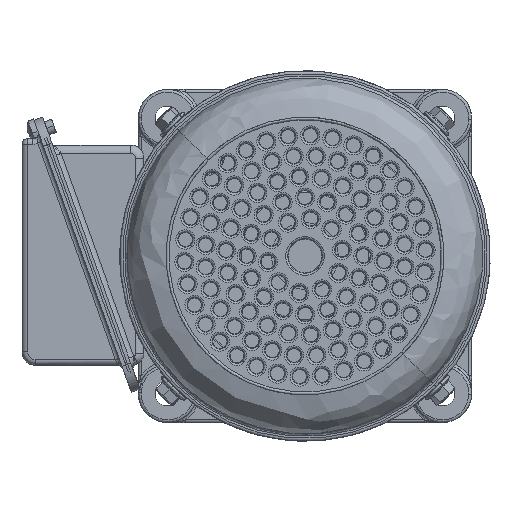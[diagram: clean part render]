
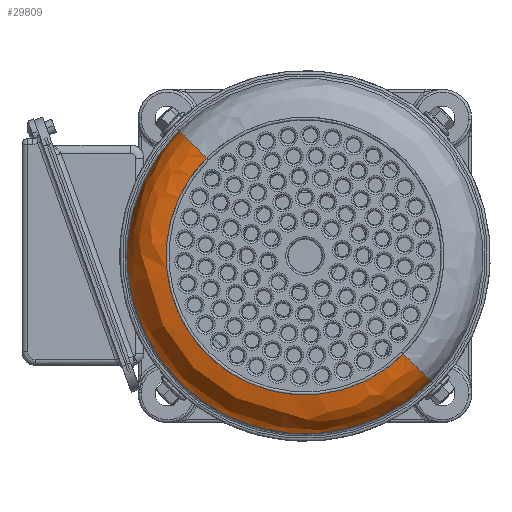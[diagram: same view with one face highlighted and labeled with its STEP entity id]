
A CAD part, front view. The second image highlights one B-rep face of the part: STEP entity #29809.
In plain terms, the highlighted free-form (B-spline) face has degree [3, 3] with [4, 4] control points.
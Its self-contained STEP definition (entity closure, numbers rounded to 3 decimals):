
#13778 = CARTESIAN_POINT ( 'NONE',  ( -50., 0., 43. ) ) ;
#13779 = CARTESIAN_POINT ( 'NONE',  ( 0., 0., 43. ) ) ;
#13780 = DIRECTION ( 'NONE',  ( 1., 0., 0. ) ) ;
#13781 = DIRECTION ( 'NONE',  ( 0., 0., 1. ) ) ;
#13782 = AXIS2_PLACEMENT_3D ( 'NONE', #13779, #13781, #13780 ) ;
#13783 = CIRCLE ( 'NONE', #13782, 50. ) ;
#13784 =( BOUNDED_SURFACE ( )  B_SPLINE_SURFACE ( 3, 3, ( 
 ( #13778, #13824, #13823, #13822 ),
 ( #13821, #13820, #13819, #13818 ),
 ( #13817, #13816, #13815, #13814 ),
 ( #13813, #13812, #13811, #13810 ) ),
 .UNSPECIFIED., .F., .F., .F. ) 
 B_SPLINE_SURFACE_WITH_KNOTS ( ( 4, 4 ),
 ( 4, 4 ),
 ( 0., 1. ),
 ( 0., 1. ),
 .UNSPECIFIED. ) 
 GEOMETRIC_REPRESENTATION_ITEM ( )  RATIONAL_B_SPLINE_SURFACE ( (
 ( 1., 0.333, 0.333, 1.),
 ( 0.805, 0.268, 0.268, 0.805),
 ( 0.805, 0.268, 0.268, 0.805),
 ( 1., 0.333, 0.333, 1.) ) ) 
 REPRESENTATION_ITEM ( '' )  SURFACE ( )  );
#13785 = FACE_OUTER_BOUND ( 'NONE', #29819, .T. ) ;
#13794 = CIRCLE ( 'NONE', #13843, 14. ) ;
#13795 = DIRECTION ( 'NONE',  ( 1., 0., 0. ) ) ;
#13796 = DIRECTION ( 'NONE',  ( 0., 0., -1. ) ) ;
#13797 = CARTESIAN_POINT ( 'NONE',  ( 0., 0., 29. ) ) ;
#13798 = AXIS2_PLACEMENT_3D ( 'NONE', #13797, #13796, #13795 ) ;
#13799 = CIRCLE ( 'NONE', #13798, 64. ) ;
#13800 = CARTESIAN_POINT ( 'NONE',  ( 50., 0., 29. ) ) ;
#13801 = CARTESIAN_POINT ( 'NONE',  ( 64., 0., 29. ) ) ;
#13802 = CARTESIAN_POINT ( 'NONE',  ( -64., 0., 29. ) ) ;
#13803 = DIRECTION ( 'NONE',  ( -1., 0., 0. ) ) ;
#13804 = DIRECTION ( 'NONE',  ( 0., -1., 0. ) ) ;
#13805 = CARTESIAN_POINT ( 'NONE',  ( -50., 0., 29. ) ) ;
#13806 = AXIS2_PLACEMENT_3D ( 'NONE', #13805, #13804, #13803 ) ;
#13807 = CIRCLE ( 'NONE', #13806, 14. ) ;
#13808 = CARTESIAN_POINT ( 'NONE',  ( 50., 0., 43. ) ) ;
#13809 = CARTESIAN_POINT ( 'NONE',  ( -50., 0., 43. ) ) ;
#13810 = CARTESIAN_POINT ( 'NONE',  ( 64., 0., 29. ) ) ;
#13811 = CARTESIAN_POINT ( 'NONE',  ( 64., -128., 29. ) ) ;
#13812 = CARTESIAN_POINT ( 'NONE',  ( -64., -128., 29. ) ) ;
#13813 = CARTESIAN_POINT ( 'NONE',  ( -64., 0., 29. ) ) ;
#13814 = CARTESIAN_POINT ( 'NONE',  ( 64., 0., 37.201 ) ) ;
#13815 = CARTESIAN_POINT ( 'NONE',  ( 64., -128., 37.201 ) ) ;
#13816 = CARTESIAN_POINT ( 'NONE',  ( -64., -128., 37.201 ) ) ;
#13817 = CARTESIAN_POINT ( 'NONE',  ( -64., 0., 37.201 ) ) ;
#13818 = CARTESIAN_POINT ( 'NONE',  ( 58.201, 0., 43. ) ) ;
#13819 = CARTESIAN_POINT ( 'NONE',  ( 58.201, -116.402, 43. ) ) ;
#13820 = CARTESIAN_POINT ( 'NONE',  ( -58.201, -116.402, 43. ) ) ;
#13821 = CARTESIAN_POINT ( 'NONE',  ( -58.201, 0., 43. ) ) ;
#13822 = CARTESIAN_POINT ( 'NONE',  ( 50., 0., 43. ) ) ;
#13823 = CARTESIAN_POINT ( 'NONE',  ( 50., -100., 43. ) ) ;
#13824 = CARTESIAN_POINT ( 'NONE',  ( -50., -100., 43. ) ) ;
#13841 = DIRECTION ( 'NONE',  ( 1., 0., 0. ) ) ;
#13842 = DIRECTION ( 'NONE',  ( 0., 1., 0. ) ) ;
#13843 = AXIS2_PLACEMENT_3D ( 'NONE', #13800, #13842, #13841 ) ;
#29809 = ADVANCED_FACE ( 'NONE', ( #13785 ), #13784, .T. ) ;
#29810 = ORIENTED_EDGE ( 'NONE', *, *, #29811, .F. ) ;
#29811 = EDGE_CURVE ( 'NONE', #29812, #29813, #13783, .T. ) ;
#29812 = VERTEX_POINT ( 'NONE', #13809 ) ;
#29813 = VERTEX_POINT ( 'NONE', #13808 ) ;
#29814 = ORIENTED_EDGE ( 'NONE', *, *, #29815, .T. ) ;
#29815 = EDGE_CURVE ( 'NONE', #29812, #29816, #13807, .T. ) ;
#29816 = VERTEX_POINT ( 'NONE', #13802 ) ;
#29817 = ORIENTED_EDGE ( 'NONE', *, *, #29820, .F. ) ;
#29818 = VERTEX_POINT ( 'NONE', #13801 ) ;
#29819 = EDGE_LOOP ( 'NONE', ( #29810, #29814, #29817, #29821 ) ) ;
#29820 = EDGE_CURVE ( 'NONE', #29818, #29816, #13799, .T. ) ;
#29821 = ORIENTED_EDGE ( 'NONE', *, *, #29822, .F. ) ;
#29822 = EDGE_CURVE ( 'NONE', #29813, #29818, #13794, .T. ) ;
